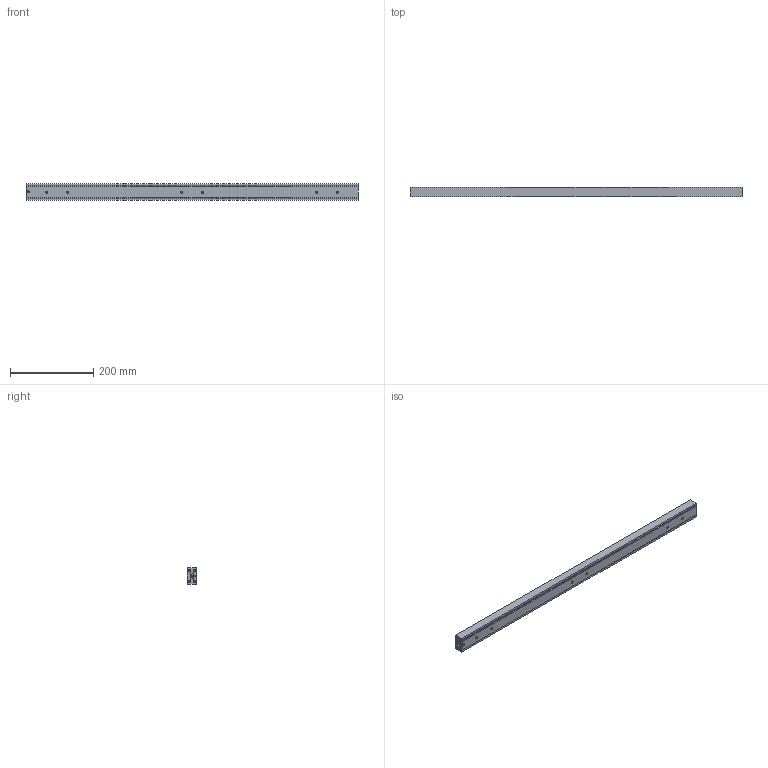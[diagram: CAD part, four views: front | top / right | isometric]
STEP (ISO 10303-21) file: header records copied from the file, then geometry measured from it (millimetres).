
FILE_DESCRIPTION(('HOOPS Exchange Step'),'2;1');
FILE_NAME('/private/var/mobile/Containers/Data/Application/F09441D5-6A40-4674-BFE0-575483BAF893/tmp/export/temp_export','2021-02-17T09:54:45+01:00',('mobile'),('Shapr3D Limited'),'HOOPS Exchange 2020.2','Shapr3D','Authorized');
FILE_SCHEMA( ('AP203_CONFIGURATION_CONTROLLED_3D_DESIGN_OF_MECHANICAL_PARTS_AND_ASSEMBLIES_MIM_LF') );
Length unit declared in the file: millimetre
Products named in the file (7): 0; /private/var/mobile/Containers/Data/Application/F09441D5-6A40-4674-BFE0-575483BAF893/tmp/F92D21A6-3347-4E74-91B9-713C58178104.tmp
Assembly tree (6 placements, depth 3):
  /private/var/mobile/Containers/Data/Application/F09441D5-6A40-4674-BFE0-575483BAF893/tmp/F92D21A6-3347-4E74-91B9-713C58178104.tmp
    0
      0
      0
      0
      0
      0
Bounding box: 800 x 24 x 40 mm (x, y, z)
Volume: 608542.1 mm3; surface area: 308518.1 mm2
Topology: 119 solids, 119 shells, 902 faces, 2926 edges, 2126 vertices
Faces by surface type: plane 452, cylinder 310, sphere 76, bspline 32, cone 32
Full cylindrical faces by diameter (mm): 4.701 x84, 6 x146, 10 x2
Entity records: 86896 total; most frequent: CARTESIAN_POINT 62651, ORIENTED_EDGE 5548, DIRECTION 3970, EDGE_CURVE 2774, VERTEX_POINT 2126, VECTOR 1336, LINE 1336, AXIS2_PLACEMENT_3D 1317
